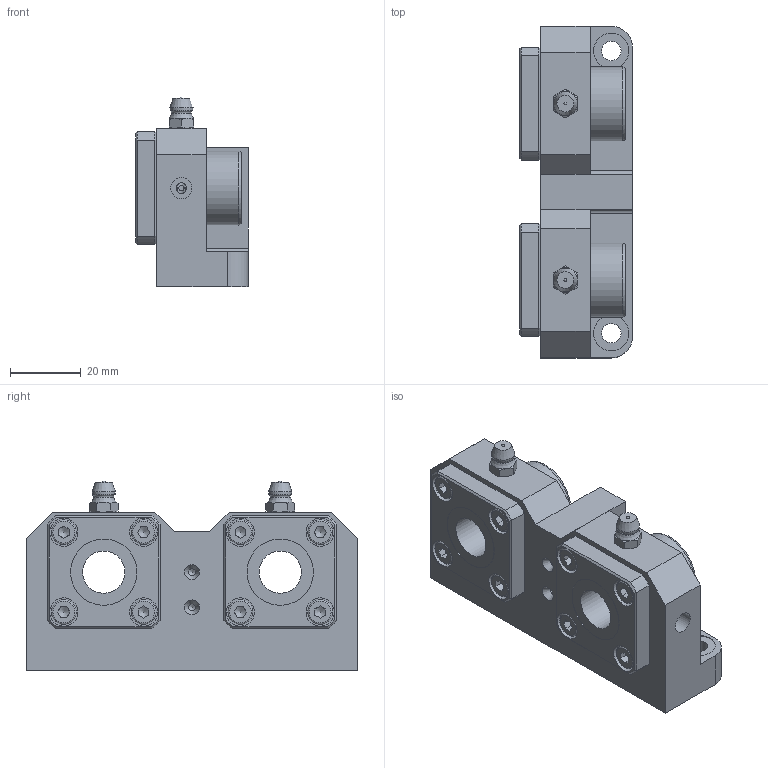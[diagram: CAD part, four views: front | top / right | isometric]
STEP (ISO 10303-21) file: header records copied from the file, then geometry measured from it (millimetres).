
FILE_DESCRIPTION((''),'2;1');
FILE_NAME('D:\製品 (図面)\カタログ用3D\リニアベアリング関連\STEP形式\LUF\LUF12.stp','2010-07-29T14:27:18',('Tsuchiya'),(''),'Autodesk Inventor 10','Autodesk Inventor 10','');
FILE_SCHEMA(('AUTOMOTIVE_DESIGN { 1 0 10303 214 1 1 1 1 }'));
Length unit declared in the file: millimetre
Products named in the file (4): LUF12; LUF121; LUF122; LUF123
Assembly tree (3 placements, depth 2):
  LUF12
    LUF121
    LUF122
    LUF123
Bounding box: 32 x 94 x 53.8 mm (x, y, z)
Volume: 82196.8 mm3; surface area: 32135.8 mm2
Topology: 13 solids, 13 shells, 342 faces, 750 edges, 470 vertices
Faces by surface type: plane 156, cylinder 78, cone 64, bspline 30, torus 10, sphere 4
Full cylindrical faces by diameter (mm): 2 x2, 3 x3, 4 x12, 4.5 x8, 5.5 x1, 6 x4, 7 x8, 8 x8, 10 x1, 12 x2, 18.8 x4, 21 x5
Entity records: 10059 total; most frequent: CARTESIAN_POINT 3371, DIRECTION 1320, ORIENTED_EDGE 1184, EDGE_CURVE 592, EDGE_LOOP 558, AXIS2_PLACEMENT_3D 557, VERTEX_POINT 440, FACE_OUTER_BOUND 342
